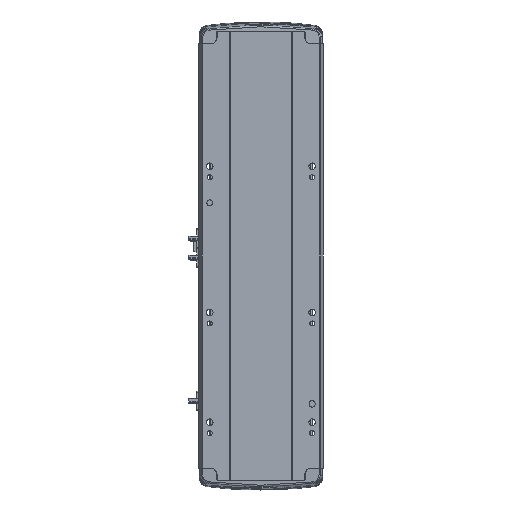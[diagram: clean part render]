
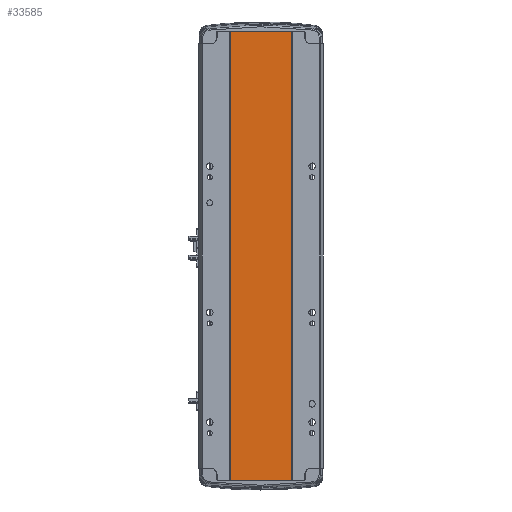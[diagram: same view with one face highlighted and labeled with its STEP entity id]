
A CAD part, front view. The second image highlights one B-rep face of the part: STEP entity #33585.
In plain terms, the highlighted planar face has unit normal (0, -1, 0).
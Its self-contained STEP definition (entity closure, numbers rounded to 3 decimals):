
#468 = ORIENTED_EDGE ( 'NONE', *, *, #9910, .F. ) ;
#3560 = ORIENTED_EDGE ( 'NONE', *, *, #4077, .T. ) ;
#3752 = AXIS2_PLACEMENT_3D ( 'NONE', #29019, #23254, #11191 ) ;
#4077 = EDGE_CURVE ( 'NONE', #31350, #14144, #8994, .T. ) ;
#5087 = CARTESIAN_POINT ( 'NONE',  ( -41.791, 1., 614.5 ) ) ;
#8994 = LINE ( 'NONE', #5087, #32198 ) ;
#9798 = FACE_OUTER_BOUND ( 'NONE', #14810, .T. ) ;
#9910 = EDGE_CURVE ( 'NONE', #12752, #18443, #15845, .T. ) ;
#10150 = LINE ( 'NONE', #13612, #33350 ) ;
#10284 = CARTESIAN_POINT ( 'NONE',  ( 41.793, 0.998, 0. ) ) ;
#10591 = CARTESIAN_POINT ( 'NONE',  ( -41.791, 1., 0. ) ) ;
#10808 = VECTOR ( 'NONE', #35888, 1000. ) ;
#11191 = DIRECTION ( 'NONE',  ( -1., 0., 0. ) ) ;
#11469 = CARTESIAN_POINT ( 'NONE',  ( 0., 0.999, 0. ) ) ;
#12752 = VERTEX_POINT ( 'NONE', #34987 ) ;
#13612 = CARTESIAN_POINT ( 'NONE',  ( 0., 0.999, 614.5 ) ) ;
#13753 = EDGE_CURVE ( 'NONE', #14144, #18443, #26940, .T. ) ;
#14144 = VERTEX_POINT ( 'NONE', #10591 ) ;
#14810 = EDGE_LOOP ( 'NONE', ( #17572, #468, #27685, #3560 ) ) ;
#15845 = LINE ( 'NONE', #29622, #26260 ) ;
#17572 = ORIENTED_EDGE ( 'NONE', *, *, #13753, .T. ) ;
#18443 = VERTEX_POINT ( 'NONE', #10284 ) ;
#20351 = PLANE ( 'NONE',  #3752 ) ;
#23254 = DIRECTION ( 'NONE',  ( 0., 1., 0. ) ) ;
#26260 = VECTOR ( 'NONE', #35525, 1000. ) ;
#26940 = LINE ( 'NONE', #11469, #10808 ) ;
#27685 = ORIENTED_EDGE ( 'NONE', *, *, #39167, .F. ) ;
#29019 = CARTESIAN_POINT ( 'NONE',  ( 0., 0.999, 614.5 ) ) ;
#29622 = CARTESIAN_POINT ( 'NONE',  ( 41.793, 0.998, 614.5 ) ) ;
#31187 = CARTESIAN_POINT ( 'NONE',  ( -41.791, 1., 614.5 ) ) ;
#31350 = VERTEX_POINT ( 'NONE', #31187 ) ;
#32198 = VECTOR ( 'NONE', #38615, 1000. ) ;
#33350 = VECTOR ( 'NONE', #34712, 1000. ) ;
#33585 = ADVANCED_FACE ( 'NONE', ( #9798 ), #20351, .F. ) ;
#34712 = DIRECTION ( 'NONE',  ( 1., 0., 0. ) ) ;
#34987 = CARTESIAN_POINT ( 'NONE',  ( 41.793, 0.998, 614.5 ) ) ;
#35525 = DIRECTION ( 'NONE',  ( 0., 0., -1. ) ) ;
#35888 = DIRECTION ( 'NONE',  ( 1., 0., 0. ) ) ;
#38615 = DIRECTION ( 'NONE',  ( 0., 0., -1. ) ) ;
#39167 = EDGE_CURVE ( 'NONE', #31350, #12752, #10150, .T. ) ;
